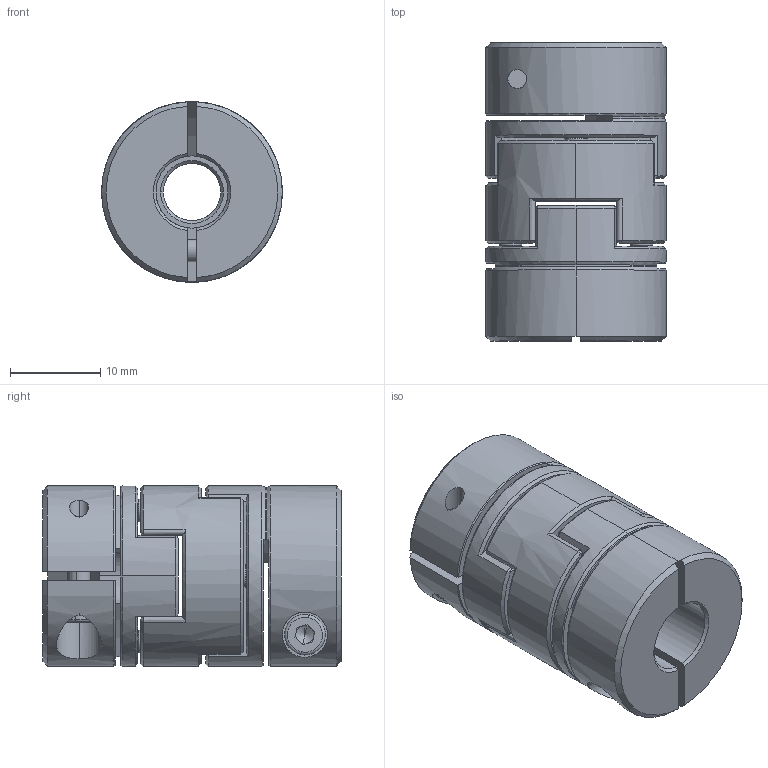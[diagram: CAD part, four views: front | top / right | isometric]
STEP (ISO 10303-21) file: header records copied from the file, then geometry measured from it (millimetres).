
FILE_DESCRIPTION (( 'STEP AP203' ), '1' );
FILE_NAME ('LZ-B-D20L33-6.35-8.STEP', '2021-10-29T05:39:01', ( '' ), ( '' ), 'SwSTEP 2.0', 'SolidWorks 2018', '' );
FILE_SCHEMA (( 'CONFIG_CONTROL_DESIGN' ));
Length unit declared in the file: millimetre
Products named in the file (1): LZ-B-D20L33-6.35-8
Bounding box: 20 x 33 x 20 mm (x, y, z)
Volume: 8212 mm3; surface area: 6103.4 mm2
Topology: 3 solids, 3 shells, 249 faces, 638 edges, 404 vertices
Faces by surface type: plane 113, cylinder 64, cone 42, bspline 26, torus 4
Entity records: 10323 total; most frequent: CARTESIAN_POINT 4472, ORIENTED_EDGE 1268, DIRECTION 1124, EDGE_CURVE 634, AXIS2_PLACEMENT_3D 434, VERTEX_POINT 404, EDGE_LOOP 276, VECTOR 256
